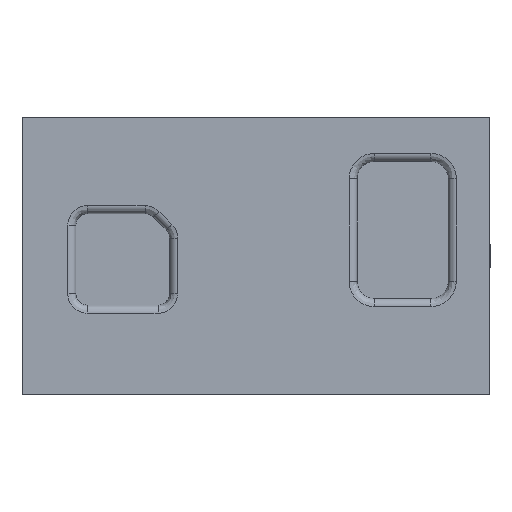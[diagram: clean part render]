
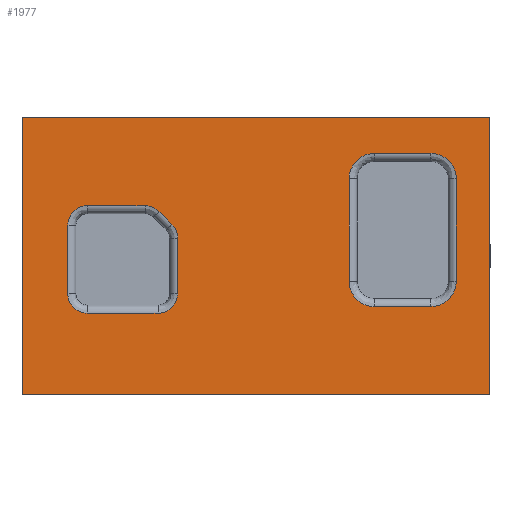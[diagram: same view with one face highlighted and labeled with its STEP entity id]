
A CAD part, top view. The second image highlights one B-rep face of the part: STEP entity #1977.
In plain terms, the highlighted planar face has unit normal (0, 0, 1).
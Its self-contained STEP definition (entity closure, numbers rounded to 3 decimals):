
#17=FACE_BOUND('',#266,.T.);
#18=FACE_BOUND('',#267,.T.);
#186=FACE_OUTER_BOUND('',#265,.T.);
#265=EDGE_LOOP('',(#1641,#1642,#1643,#1644));
#266=EDGE_LOOP('',(#1645,#1646,#1647,#1648,#1649,#1650,#1651,#1652));
#267=EDGE_LOOP('',(#1653,#1654,#1655,#1656,#1657,#1658,#1659,#1660,#1661,
#1662));
#378=LINE('',#2913,#570);
#379=LINE('',#3001,#571);
#448=LINE('',#3304,#640);
#453=LINE('',#3313,#645);
#456=LINE('',#3319,#648);
#462=LINE('',#3326,#654);
#464=LINE('',#3363,#656);
#465=LINE('',#3395,#657);
#466=LINE('',#3436,#658);
#467=LINE('',#3440,#659);
#468=LINE('',#3444,#660);
#469=LINE('',#3448,#661);
#470=LINE('',#3452,#662);
#570=VECTOR('',#2308,0.879);
#571=VECTOR('',#2333,0.484);
#640=VECTOR('',#2524,4.02);
#645=VECTOR('',#2531,2.38);
#648=VECTOR('',#2536,4.02);
#654=VECTOR('',#2544,2.38);
#656=VECTOR('',#2560,0.484);
#657=VECTOR('',#2571,0.879);
#658=VECTOR('',#2584,0.587);
#659=VECTOR('',#2587,0.496);
#660=VECTOR('',#2590,0.157);
#661=VECTOR('',#2593,0.476);
#662=VECTOR('',#2596,0.607);
#680=ELLIPSE('',#2036,0.223,0.22);
#682=ELLIPSE('',#2045,0.223,0.22);
#685=ELLIPSE('',#2107,0.223,0.22);
#687=ELLIPSE('',#2112,0.223,0.22);
#688=ELLIPSE('',#2121,0.173,0.17);
#689=ELLIPSE('',#2122,0.171,0.17);
#690=ELLIPSE('',#2123,0.171,0.17);
#691=ELLIPSE('',#2124,0.173,0.17);
#692=ELLIPSE('',#2125,0.173,0.17);
#807=VERTEX_POINT('',#2910);
#808=VERTEX_POINT('',#2912);
#809=VERTEX_POINT('',#2995);
#810=VERTEX_POINT('',#2999);
#811=VERTEX_POINT('',#3080);
#909=VERTEX_POINT('',#3301);
#910=VERTEX_POINT('',#3303);
#913=VERTEX_POINT('',#3311);
#915=VERTEX_POINT('',#3317);
#917=VERTEX_POINT('',#3358);
#918=VERTEX_POINT('',#3362);
#919=VERTEX_POINT('',#3391);
#920=VERTEX_POINT('',#3434);
#921=VERTEX_POINT('',#3435);
#922=VERTEX_POINT('',#3437);
#923=VERTEX_POINT('',#3439);
#924=VERTEX_POINT('',#3441);
#925=VERTEX_POINT('',#3443);
#926=VERTEX_POINT('',#3445);
#927=VERTEX_POINT('',#3447);
#928=VERTEX_POINT('',#3449);
#929=VERTEX_POINT('',#3451);
#1047=EDGE_CURVE('',#807,#808,#378,.T.);
#1055=EDGE_CURVE('',#809,#807,#680,.T.);
#1057=EDGE_CURVE('',#810,#809,#379,.T.);
#1062=EDGE_CURVE('',#811,#810,#682,.T.);
#1172=EDGE_CURVE('',#910,#909,#448,.T.);
#1177=EDGE_CURVE('',#909,#913,#453,.T.);
#1180=EDGE_CURVE('',#913,#915,#456,.T.);
#1186=EDGE_CURVE('',#915,#910,#462,.T.);
#1190=EDGE_CURVE('',#808,#917,#685,.T.);
#1192=EDGE_CURVE('',#917,#918,#464,.T.);
#1195=EDGE_CURVE('',#918,#919,#687,.T.);
#1197=EDGE_CURVE('',#919,#811,#465,.T.);
#1200=EDGE_CURVE('',#920,#921,#466,.T.);
#1201=EDGE_CURVE('',#922,#920,#688,.T.);
#1202=EDGE_CURVE('',#923,#922,#467,.T.);
#1203=EDGE_CURVE('',#924,#923,#689,.T.);
#1204=EDGE_CURVE('',#925,#924,#468,.T.);
#1205=EDGE_CURVE('',#926,#925,#690,.T.);
#1206=EDGE_CURVE('',#927,#926,#469,.T.);
#1207=EDGE_CURVE('',#928,#927,#691,.T.);
#1208=EDGE_CURVE('',#929,#928,#470,.T.);
#1209=EDGE_CURVE('',#921,#929,#692,.T.);
#1641=ORIENTED_EDGE('',*,*,#1172,.T.);
#1642=ORIENTED_EDGE('',*,*,#1177,.T.);
#1643=ORIENTED_EDGE('',*,*,#1180,.T.);
#1644=ORIENTED_EDGE('',*,*,#1186,.T.);
#1645=ORIENTED_EDGE('',*,*,#1047,.F.);
#1646=ORIENTED_EDGE('',*,*,#1055,.F.);
#1647=ORIENTED_EDGE('',*,*,#1057,.F.);
#1648=ORIENTED_EDGE('',*,*,#1062,.F.);
#1649=ORIENTED_EDGE('',*,*,#1197,.F.);
#1650=ORIENTED_EDGE('',*,*,#1195,.F.);
#1651=ORIENTED_EDGE('',*,*,#1192,.F.);
#1652=ORIENTED_EDGE('',*,*,#1190,.F.);
#1653=ORIENTED_EDGE('',*,*,#1200,.F.);
#1654=ORIENTED_EDGE('',*,*,#1201,.F.);
#1655=ORIENTED_EDGE('',*,*,#1202,.F.);
#1656=ORIENTED_EDGE('',*,*,#1203,.F.);
#1657=ORIENTED_EDGE('',*,*,#1204,.F.);
#1658=ORIENTED_EDGE('',*,*,#1205,.F.);
#1659=ORIENTED_EDGE('',*,*,#1206,.F.);
#1660=ORIENTED_EDGE('',*,*,#1207,.F.);
#1661=ORIENTED_EDGE('',*,*,#1208,.F.);
#1662=ORIENTED_EDGE('',*,*,#1209,.F.);
#1856=PLANE('',#2120);
#1977=ADVANCED_FACE('',(#186,#17,#18),#1856,.T.);
#2036=AXIS2_PLACEMENT_3D('',#2997,#2327,#2328);
#2045=AXIS2_PLACEMENT_3D('',#3082,#2346,#2347);
#2107=AXIS2_PLACEMENT_3D('',#3359,#2554,#2555);
#2112=AXIS2_PLACEMENT_3D('',#3392,#2565,#2566);
#2120=AXIS2_PLACEMENT_3D('',#3433,#2582,#2583);
#2121=AXIS2_PLACEMENT_3D('',#3438,#2585,#2586);
#2122=AXIS2_PLACEMENT_3D('',#3442,#2588,#2589);
#2123=AXIS2_PLACEMENT_3D('',#3446,#2591,#2592);
#2124=AXIS2_PLACEMENT_3D('',#3450,#2594,#2595);
#2125=AXIS2_PLACEMENT_3D('',#3453,#2597,#2598);
#2308=DIRECTION('',(0.,-1.,0.));
#2327=DIRECTION('center_axis',(0.,0.,
1.));
#2328=DIRECTION('ref_axis',(-0.707,0.707,0.));
#2333=DIRECTION('',(-1.,0.,0.));
#2346=DIRECTION('center_axis',(0.,0.,
1.));
#2347=DIRECTION('ref_axis',(0.707,0.707,0.));
#2524=DIRECTION('',(-1.,0.,0.));
#2531=DIRECTION('',(0.,-1.,0.));
#2536=DIRECTION('',(1.,0.,0.));
#2544=DIRECTION('',(0.,1.,0.));
#2554=DIRECTION('center_axis',(0.,0.,
1.));
#2555=DIRECTION('ref_axis',(-0.707,-0.707,0.));
#2560=DIRECTION('',(1.,0.,0.));
#2565=DIRECTION('center_axis',(0.,0.,
1.));
#2566=DIRECTION('ref_axis',(0.707,-0.707,0.));
#2571=DIRECTION('',(0.,1.,0.));
#2582=DIRECTION('center_axis',(0.,0.,
1.));
#2583=DIRECTION('ref_axis',(-1.,0.,0.));
#2584=DIRECTION('',(0.,-1.,0.));
#2585=DIRECTION('center_axis',(0.,0.,
1.));
#2586=DIRECTION('ref_axis',(-0.707,0.707,0.));
#2587=DIRECTION('',(-1.,0.,0.));
#2588=DIRECTION('center_axis',(0.,0.,
1.));
#2589=DIRECTION('ref_axis',(0.383,0.924,0.));
#2590=DIRECTION('',(-0.707,0.707,0.));
#2591=DIRECTION('center_axis',(0.,0.,
1.));
#2592=DIRECTION('ref_axis',(0.924,0.383,0.));
#2593=DIRECTION('',(0.,1.,0.));
#2594=DIRECTION('center_axis',(0.,0.,
1.));
#2595=DIRECTION('ref_axis',(0.707,-0.707,0.));
#2596=DIRECTION('',(1.,0.,0.));
#2597=DIRECTION('center_axis',(0.,0.,
1.));
#2598=DIRECTION('ref_axis',(-0.707,-0.707,0.));
#2910=CARTESIAN_POINT('',(0.799,0.662,0.75));
#2912=CARTESIAN_POINT('',(0.799,-0.217,0.75));
#2913=CARTESIAN_POINT('',(0.799,-0.15,0.75));
#2995=CARTESIAN_POINT('',(1.018,0.881,0.75));
#2997=CARTESIAN_POINT('Origin',(1.021,0.659,0.75));
#2999=CARTESIAN_POINT('',(1.502,0.881,0.75));
#3001=CARTESIAN_POINT('',(0.467,0.881,0.75));
#3080=CARTESIAN_POINT('',(1.721,0.662,0.75));
#3082=CARTESIAN_POINT('Origin',(1.499,0.659,0.75));
#3301=CARTESIAN_POINT('',(-2.01,1.19,0.75));
#3303=CARTESIAN_POINT('',(2.01,1.19,0.75));
#3304=CARTESIAN_POINT('',(2.01,1.19,0.75));
#3311=CARTESIAN_POINT('',(-2.01,-1.19,0.75));
#3313=CARTESIAN_POINT('',(-2.01,1.19,0.75));
#3317=CARTESIAN_POINT('',(2.01,-1.19,0.75));
#3319=CARTESIAN_POINT('',(-2.01,-1.19,0.75));
#3326=CARTESIAN_POINT('',(2.01,-1.19,0.75));
#3358=CARTESIAN_POINT('',(1.018,-0.436,0.75));
#3359=CARTESIAN_POINT('Origin',(1.021,-0.214,0.75));
#3362=CARTESIAN_POINT('',(1.502,-0.436,0.75));
#3363=CARTESIAN_POINT('',(0.792,-0.436,0.75));
#3391=CARTESIAN_POINT('',(1.721,-0.217,0.75));
#3392=CARTESIAN_POINT('Origin',(1.499,-0.214,0.75));
#3395=CARTESIAN_POINT('',(1.721,0.373,0.75));
#3433=CARTESIAN_POINT('Origin',(0.,0.,
0.75));
#3434=CARTESIAN_POINT('',(-1.617,0.263,0.75));
#3435=CARTESIAN_POINT('',(-1.617,-0.323,0.75));
#3436=CARTESIAN_POINT('',(-1.617,-0.195,0.75));
#3437=CARTESIAN_POINT('',(-1.448,0.432,0.75));
#3438=CARTESIAN_POINT('Origin',(-1.446,0.261,0.75));
#3439=CARTESIAN_POINT('',(-0.953,0.432,0.75));
#3440=CARTESIAN_POINT('',(-0.758,0.432,0.75));
#3441=CARTESIAN_POINT('',(-0.833,0.383,0.75));
#3442=CARTESIAN_POINT('Origin',(-0.954,0.261,0.75));
#3443=CARTESIAN_POINT('',(-0.722,0.272,0.75));
#3444=CARTESIAN_POINT('',(-0.539,0.089,0.75));
#3445=CARTESIAN_POINT('',(-0.673,0.152,0.75));
#3446=CARTESIAN_POINT('Origin',(-0.844,0.151,0.75));
#3447=CARTESIAN_POINT('',(-0.673,-0.323,0.75));
#3448=CARTESIAN_POINT('',(-0.673,0.09,0.75));
#3449=CARTESIAN_POINT('',(-0.842,-0.492,0.75));
#3450=CARTESIAN_POINT('Origin',(-0.844,-0.321,0.75));
#3451=CARTESIAN_POINT('',(-1.448,-0.492,0.75));
#3452=CARTESIAN_POINT('',(-0.388,-0.492,0.75));
#3453=CARTESIAN_POINT('Origin',(-1.446,-0.321,0.75));
